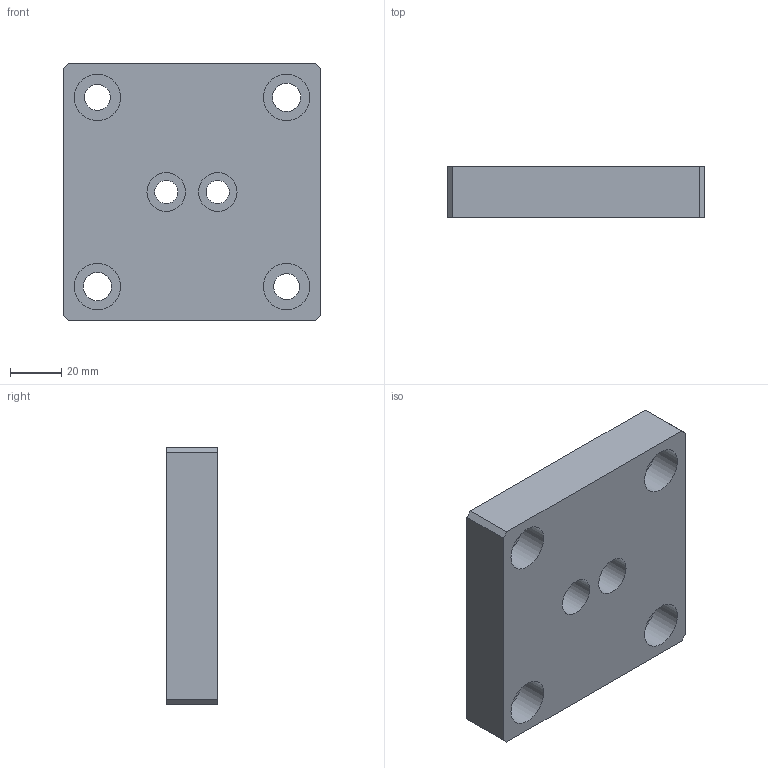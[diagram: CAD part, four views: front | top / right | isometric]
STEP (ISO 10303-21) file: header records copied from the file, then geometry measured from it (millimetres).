
FILE_DESCRIPTION(/* description */ (''),/* implementation_level */ '2;1');
FILE_NAME(/* name */ 'C:\Users\Jefferson\Desktop\Biblioteca Pro Nitro 2024\Flanges\PNB-56-XXX\PNB-56-063.stp',/* time_stamp */ '2024-01-29T14:08:38-03:00',/* author */ ('Jefferson'),/* organization */ (''),/* preprocessor_version */ 'ST-DEVELOPER v18.1',/* originating_system */ 'Autodesk Inventor 2021',/* authorisation */ '');
FILE_SCHEMA (('AUTOMOTIVE_DESIGN { 1 0 10303 214 3 1 1 }'));
Length unit declared in the file: millimetre
Products named in the file (1): PNB-56-063
Bounding box: 100 x 20 x 100 mm (x, y, z)
Volume: 179104 mm3; surface area: 32390.2 mm2
Topology: 1 solids, 1 shells, 203 faces, 549 edges, 370 vertices
Faces by surface type: bspline 104, plane 87, cylinder 12
Full cylindrical faces by diameter (mm): 9 x2, 10.106 x2, 11 x2, 15 x2, 18 x4
Entity records: 6984 total; most frequent: CARTESIAN_POINT 2475, ORIENTED_EDGE 1098, DIRECTION 577, EDGE_CURVE 549, VERTEX_POINT 370, LINE 305, VECTOR 305, EDGE_LOOP 237
